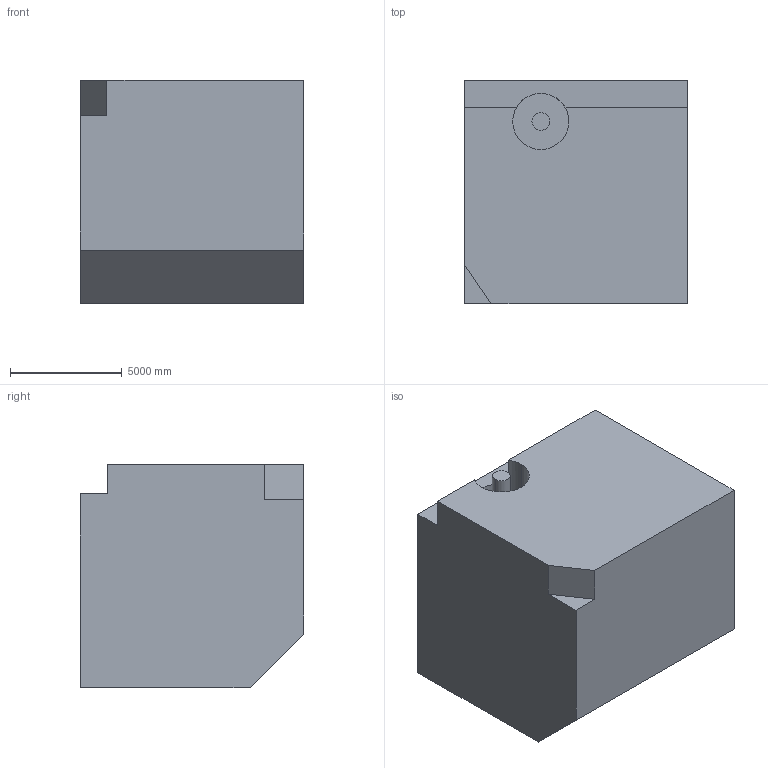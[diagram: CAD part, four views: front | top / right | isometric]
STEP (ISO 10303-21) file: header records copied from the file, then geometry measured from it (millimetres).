
FILE_DESCRIPTION (( 'STEP AP203' ), '1' );
FILE_NAME ('1412.STEP', '2022-08-18T14:19:25', ( 'user' ), ( '' ), 'SwSTEP 2.0', 'SolidWorks 2021', '' );
FILE_SCHEMA (( 'CONFIG_CONTROL_DESIGN' ));
Length unit declared in the file: centimetre
Products named in the file (1): 1412
Bounding box: 10000 x 10000 x 10000 mm (x, y, z)
Volume: 904000952287.5 mm3; surface area: 683323245.2 mm2
Topology: 1 solids, 1 shells, 24 faces, 57 edges, 38 vertices
Faces by surface type: plane 16, cylinder 8
Entity records: 776 total; most frequent: DIRECTION 125, CARTESIAN_POINT 120, ORIENTED_EDGE 114, EDGE_CURVE 57, AXIS2_PLACEMENT_3D 43, VECTOR 39, LINE 39, VERTEX_POINT 38
